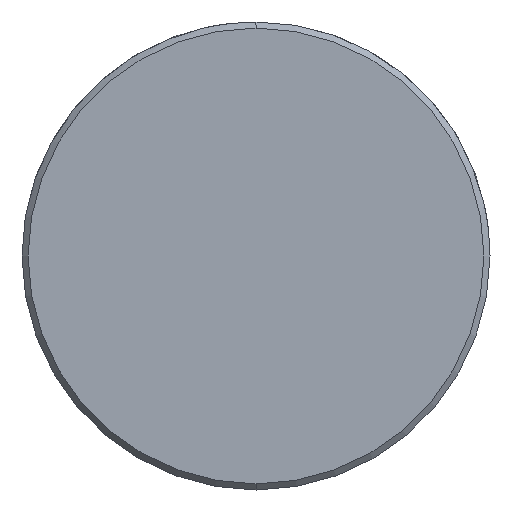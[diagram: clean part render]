
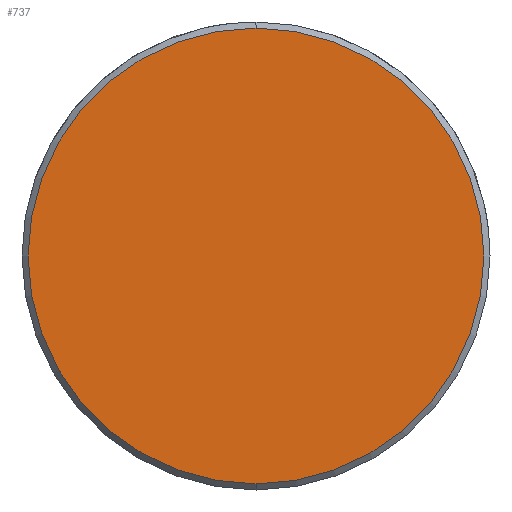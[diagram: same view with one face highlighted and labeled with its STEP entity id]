
A CAD part, left-side view. The second image highlights one B-rep face of the part: STEP entity #737.
In plain terms, the highlighted planar face has unit normal (-1, 0, 0).
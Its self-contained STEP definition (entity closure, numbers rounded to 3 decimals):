
#669=CARTESIAN_POINT('Vertex',(0.,0.,-11.2)) ;
#672=CARTESIAN_POINT('Axis2P3D Location',(0.,0.,0.)) ;
#676=CARTESIAN_POINT('Vertex',(0.,11.2,0.)) ;
#679=CARTESIAN_POINT('Axis2P3D Location',(0.,0.,0.)) ;
#683=CARTESIAN_POINT('Vertex',(0.,0.,11.2)) ;
#705=CARTESIAN_POINT('Axis2P3D Location',(0.,0.,0.)) ;
#709=CARTESIAN_POINT('Vertex',(0.,-11.2,0.)) ;
#712=CARTESIAN_POINT('Axis2P3D Location',(0.,0.,0.)) ;
#726=CARTESIAN_POINT('Axis2P3D Location',(0.,0.,0.)) ;
#673=DIRECTION('Axis2P3D Direction',(1.,0.,-0.)) ;
#680=DIRECTION('Axis2P3D Direction',(1.,0.,-0.)) ;
#706=DIRECTION('Axis2P3D Direction',(1.,0.,-0.)) ;
#713=DIRECTION('Axis2P3D Direction',(1.,0.,-0.)) ;
#727=DIRECTION('Axis2P3D Direction',(1.,0.,-0.)) ;
#728=DIRECTION('Axis2P3D XDirection',(-0.,0.,-1.)) ;
#674=AXIS2_PLACEMENT_3D('Circle Axis2P3D',#672,#673,$) ;
#681=AXIS2_PLACEMENT_3D('Circle Axis2P3D',#679,#680,$) ;
#707=AXIS2_PLACEMENT_3D('Circle Axis2P3D',#705,#706,$) ;
#714=AXIS2_PLACEMENT_3D('Circle Axis2P3D',#712,#713,$) ;
#729=AXIS2_PLACEMENT_3D('Plane Axis2P3D',#726,#727,#728) ;
#732=ORIENTED_EDGE('',*,*,#678,.F.) ;
#733=ORIENTED_EDGE('',*,*,#716,.F.) ;
#734=ORIENTED_EDGE('',*,*,#711,.F.) ;
#735=ORIENTED_EDGE('',*,*,#685,.F.) ;
#737=ADVANCED_FACE('549-20X120',(#736),#730,.F.) ;
#675=CIRCLE('generated circle',#674,11.2) ;
#682=CIRCLE('generated circle',#681,11.2) ;
#708=CIRCLE('generated circle',#707,11.2) ;
#715=CIRCLE('generated circle',#714,11.2) ;
#678=EDGE_CURVE('',#670,#677,#675,.T.) ;
#685=EDGE_CURVE('',#677,#684,#682,.T.) ;
#711=EDGE_CURVE('',#684,#710,#708,.T.) ;
#716=EDGE_CURVE('',#710,#670,#715,.T.) ;
#731=EDGE_LOOP('',(#732,#733,#734,#735)) ;
#736=FACE_OUTER_BOUND('',#731,.T.) ;
#730=PLANE('Plane',#729) ;
#670=VERTEX_POINT('',#669) ;
#677=VERTEX_POINT('',#676) ;
#684=VERTEX_POINT('',#683) ;
#710=VERTEX_POINT('',#709) ;
